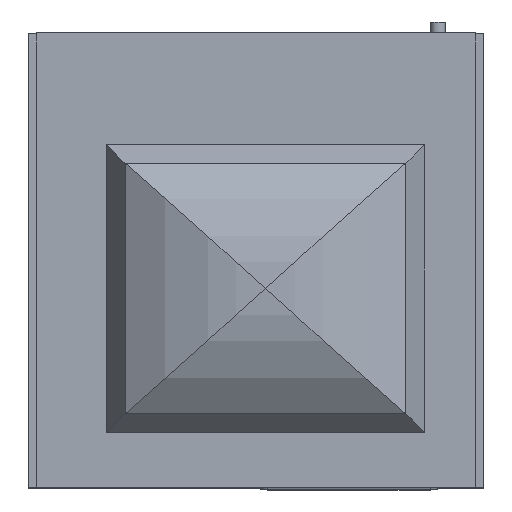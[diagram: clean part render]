
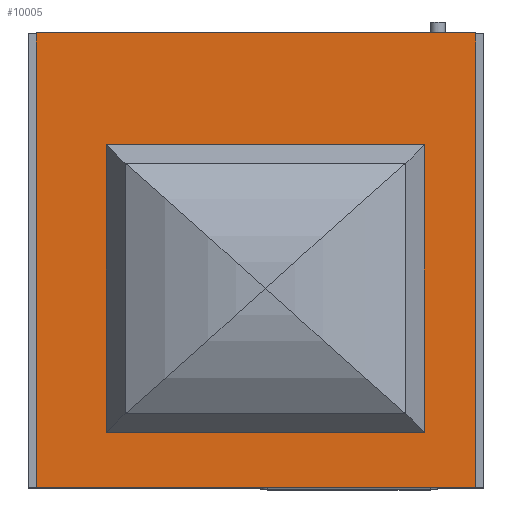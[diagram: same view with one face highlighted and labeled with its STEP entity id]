
A CAD part, top view. The second image highlights one B-rep face of the part: STEP entity #10005.
In plain terms, the highlighted planar face has unit normal (0, 0, 1).
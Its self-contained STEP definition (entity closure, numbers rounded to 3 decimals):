
#987=ORIENTED_EDGE('',*,*,#3834,.T.);
#988=ORIENTED_EDGE('',*,*,#3833,.T.);
#989=ORIENTED_EDGE('',*,*,#3831,.F.);
#990=ORIENTED_EDGE('',*,*,#3828,.F.);
#991=ORIENTED_EDGE('',*,*,#3835,.F.);
#992=ORIENTED_EDGE('',*,*,#3836,.F.);
#993=ORIENTED_EDGE('',*,*,#3837,.F.);
#994=ORIENTED_EDGE('',*,*,#3838,.F.);
#3828=EDGE_CURVE('',#5260,#5261,#6252,.T.);
#3831=EDGE_CURVE('',#5261,#5262,#6255,.T.);
#3833=EDGE_CURVE('',#5263,#5262,#6257,.T.);
#3834=EDGE_CURVE('',#5260,#5263,#6258,.T.);
#3835=EDGE_CURVE('',#5264,#5265,#6259,.T.);
#3836=EDGE_CURVE('',#5266,#5264,#6260,.T.);
#3837=EDGE_CURVE('',#5267,#5266,#6261,.T.);
#3838=EDGE_CURVE('',#5265,#5267,#6262,.T.);
#5260=VERTEX_POINT('',#16844);
#5261=VERTEX_POINT('',#16846);
#5262=VERTEX_POINT('',#16850);
#5263=VERTEX_POINT('',#16854);
#5264=VERTEX_POINT('',#16860);
#5265=VERTEX_POINT('',#16861);
#5266=VERTEX_POINT('',#16863);
#5267=VERTEX_POINT('',#16865);
#6252=LINE('',#16845,#7150);
#6255=LINE('',#16851,#7153);
#6257=LINE('',#16855,#7155);
#6258=LINE('',#16857,#7156);
#6259=LINE('',#16859,#7157);
#6260=LINE('',#16862,#7158);
#6261=LINE('',#16864,#7159);
#6262=LINE('',#16866,#7160);
#7150=VECTOR('',#14140,1000.);
#7153=VECTOR('',#14145,1000.);
#7155=VECTOR('',#14149,1000.);
#7156=VECTOR('',#14152,1000.);
#7157=VECTOR('',#14155,1000.);
#7158=VECTOR('',#14156,1000.);
#7159=VECTOR('',#14157,1000.);
#7160=VECTOR('',#14158,1000.);
#8033=EDGE_LOOP('',(#987,#988,#989,#990));
#8034=EDGE_LOOP('',(#991,#992,#993,#994));
#8819=FACE_BOUND('',#8033,.T.);
#8820=FACE_BOUND('',#8034,.T.);
#9599=PLANE('',#13205);
#10005=ADVANCED_FACE('',(#8819,#8820),#9599,.T.);
#13205=AXIS2_PLACEMENT_3D('',#16858,#14153,#14154);
#14140=DIRECTION('',(0.,1.,0.));
#14145=DIRECTION('',(-1.,0.,0.));
#14149=DIRECTION('',(0.,1.,0.));
#14152=DIRECTION('',(-1.,0.,0.));
#14153=DIRECTION('',(0.,0.,1.));
#14154=DIRECTION('',(1.,0.,0.));
#14155=DIRECTION('',(-1.,0.,0.));
#14156=DIRECTION('',(0.,-1.,0.));
#14157=DIRECTION('',(1.,0.,0.));
#14158=DIRECTION('',(0.,1.,0.));
#16844=CARTESIAN_POINT('',(512.5,72.5,360.));
#16845=CARTESIAN_POINT('',(512.5,31.989,360.));
#16846=CARTESIAN_POINT('',(512.5,452.5,360.));
#16850=CARTESIAN_POINT('',(92.5,452.5,360.));
#16851=CARTESIAN_POINT('',(540.,452.5,360.));
#16854=CARTESIAN_POINT('',(92.5,72.5,360.));
#16855=CARTESIAN_POINT('',(92.5,31.989,360.));
#16857=CARTESIAN_POINT('',(540.,72.5,360.));
#16858=CARTESIAN_POINT('',(580.,600.,360.));
#16859=CARTESIAN_POINT('',(580.,-0.001,360.));
#16860=CARTESIAN_POINT('',(580.001,-0.001,360.));
#16861=CARTESIAN_POINT('',(-0.001,-0.001,360.));
#16862=CARTESIAN_POINT('',(580.001,600.001,360.));
#16863=CARTESIAN_POINT('',(580.001,600.001,360.));
#16864=CARTESIAN_POINT('',(0.,600.001,360.));
#16865=CARTESIAN_POINT('',(-0.001,600.001,360.));
#16866=CARTESIAN_POINT('',(-0.001,0.,360.));
